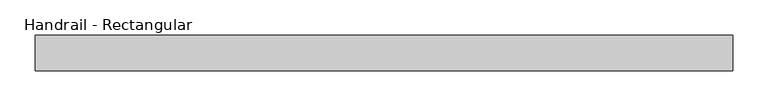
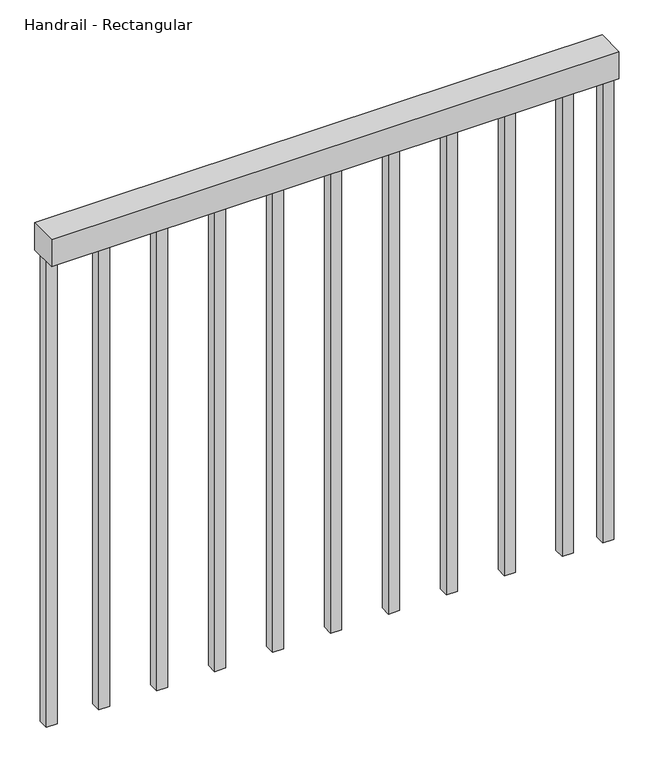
"""IFC4 building model written with IfcOpenShell, lengths in millimetres: railing geometry, Handrail - Rectangular."""

from ifc_helpers import new_model, si_unit, frame, origin, place, context, project, spatial, polyline, outline, extrude, source, transform, mapped, element, save


def handrail_rectangular_334663b3(model_context):
    return source(origin(), model_context, "Body", "SweptSolid", [
        extrude(outline(polyline([(-11206.4909741, 5925.9265679), (-11206.4909741, 5976.7265679), (-10211.4909741, 5976.7265679), (-10211.4909741, 5925.9265679), (-11206.4909741, 5925.9265679)])), frame((0.0, 0.0, 3863.6), z_axis=(0.0, 0.0, 1.0), x_axis=(1.0, 0.0, 0.0)), (0.0, 0.0, 1.0), 50.8),
        extrude(outline(polyline([(-10301.6159741, 5941.8015679), (-10301.6159741, 5960.8515679), (-10282.5659741, 5960.8515679), (-10282.5659741, 5941.8015679), (-10301.6159741, 5941.8015679)])), frame((0.0, 0.0, 3000.0), z_axis=(0.0, 0.0, 1.0), x_axis=(1.0, 0.0, 0.0)), (0.0, 0.0, 1.0), 863.6),
        extrude(outline(polyline([(-10403.2159741, 5941.8015679), (-10403.2159741, 5960.8515679), (-10384.1659741, 5960.8515679), (-10384.1659741, 5941.8015679), (-10403.2159741, 5941.8015679)])), frame((0.0, 0.0, 3000.0), z_axis=(0.0, 0.0, 1.0), x_axis=(1.0, 0.0, 0.0)), (0.0, 0.0, 1.0), 863.6),
        extrude(outline(polyline([(-10504.8159741, 5941.8015679), (-10504.8159741, 5960.8515679), (-10485.7659741, 5960.8515679), (-10485.7659741, 5941.8015679), (-10504.8159741, 5941.8015679)])), frame((0.0, 0.0, 3000.0), z_axis=(0.0, 0.0, 1.0), x_axis=(1.0, 0.0, 0.0)), (0.0, 0.0, 1.0), 863.6),
        extrude(outline(polyline([(-10606.4159741, 5941.8015679), (-10606.4159741, 5960.8515679), (-10587.3659741, 5960.8515679), (-10587.3659741, 5941.8015679), (-10606.4159741, 5941.8015679)])), frame((0.0, 0.0, 3000.0), z_axis=(0.0, 0.0, 1.0), x_axis=(1.0, 0.0, 0.0)), (0.0, 0.0, 1.0), 863.6),
        extrude(outline(polyline([(-10708.0159741, 5941.8015679), (-10708.0159741, 5960.8515679), (-10688.9659741, 5960.8515679), (-10688.9659741, 5941.8015679), (-10708.0159741, 5941.8015679)])), frame((0.0, 0.0, 3000.0), z_axis=(0.0, 0.0, 1.0), x_axis=(1.0, 0.0, 0.0)), (0.0, 0.0, 1.0), 863.6),
        extrude(outline(polyline([(-10809.6159741, 5941.8015679), (-10809.6159741, 5960.8515679), (-10790.5659741, 5960.8515679), (-10790.5659741, 5941.8015679), (-10809.6159741, 5941.8015679)])), frame((0.0, 0.0, 3000.0), z_axis=(0.0, 0.0, 1.0), x_axis=(1.0, 0.0, 0.0)), (0.0, 0.0, 1.0), 863.6),
        extrude(outline(polyline([(-10911.2159741, 5941.8015679), (-10911.2159741, 5960.8515679), (-10892.1659741, 5960.8515679), (-10892.1659741, 5941.8015679), (-10911.2159741, 5941.8015679)])), frame((0.0, 0.0, 3000.0), z_axis=(0.0, 0.0, 1.0), x_axis=(1.0, 0.0, 0.0)), (0.0, 0.0, 1.0), 863.6),
        extrude(outline(polyline([(-11012.8159741, 5941.8015679), (-11012.8159741, 5960.8515679), (-10993.7659741, 5960.8515679), (-10993.7659741, 5941.8015679), (-11012.8159741, 5941.8015679)])), frame((0.0, 0.0, 3000.0), z_axis=(0.0, 0.0, 1.0), x_axis=(1.0, 0.0, 0.0)), (0.0, 0.0, 1.0), 863.6),
        extrude(outline(polyline([(-11114.4159741, 5941.8015679), (-11114.4159741, 5960.8515679), (-11095.3659741, 5960.8515679), (-11095.3659741, 5941.8015679), (-11114.4159741, 5941.8015679)])), frame((0.0, 0.0, 3000.0), z_axis=(0.0, 0.0, 1.0), x_axis=(1.0, 0.0, 0.0)), (0.0, 0.0, 1.0), 863.6),
        extrude(outline(polyline([(-10230.5409741, 5941.8015679), (-10230.5409741, 5960.8515679), (-10211.4909741, 5960.8515679), (-10211.4909741, 5941.8015679), (-10230.5409741, 5941.8015679)])), frame((0.0, 0.0, 3000.0), z_axis=(0.0, 0.0, 1.0), x_axis=(1.0, 0.0, 0.0)), (0.0, 0.0, 1.0), 863.6),
        extrude(outline(polyline([(-11206.4909741, 5941.8015679), (-11206.4909741, 5960.8515679), (-11187.4409741, 5960.8515679), (-11187.4409741, 5941.8015679), (-11206.4909741, 5941.8015679)])), frame((0.0, 0.0, 3000.0), z_axis=(0.0, 0.0, 1.0), x_axis=(1.0, 0.0, 0.0)), (0.0, 0.0, 1.0), 863.6),
    ])


if __name__ == "__main__":
    model = new_model("IFC4")
    model_context = context("Model", 3, world=origin())
    ifc_project = project(units=[si_unit("LENGTHUNIT", "METRE", prefix="MILLI")], contexts=[model_context])
    site = spatial("IfcSite", under=ifc_project)
    building = spatial("IfcBuilding", under=site)
    placement = place(None, origin())
    handrail_rectangular_shape = handrail_rectangular_334663b3(model_context)
    element("IfcRailing", 1, ObjectType="Handrail - Rectangular", at=placement, inside=building, context=model_context, shape_type="MappedRepresentation", body=[
        mapped(handrail_rectangular_shape, transform((0.0, 0.0, 0.0), x_axis=(1.0, 0.0, 0.0), y_axis=(0.0, 1.0, 0.0), z_axis=(0.0, 0.0, 1.0))),
    ])
    save(model, "model.ifc")
